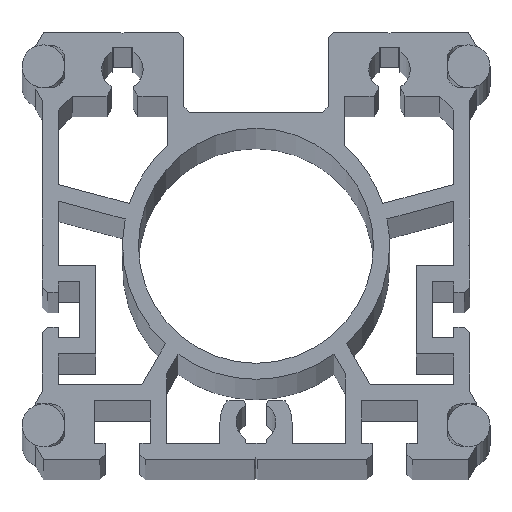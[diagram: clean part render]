
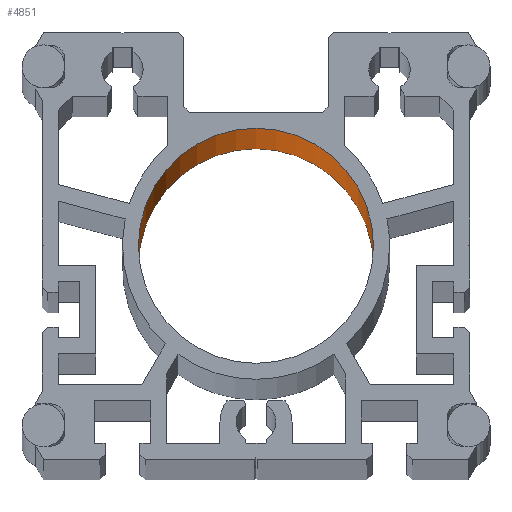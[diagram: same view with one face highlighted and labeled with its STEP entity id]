
A CAD part, top view. The second image highlights one B-rep face of the part: STEP entity #4851.
In plain terms, the highlighted cylindrical face has radius 22 mm (diameter 44 mm), a partial arc.
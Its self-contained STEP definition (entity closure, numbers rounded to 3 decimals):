
#95 = AXIS2_PLACEMENT_3D ( 'NONE', #449, #448, #416 ) ;
#96 = CIRCLE ( 'NONE', #95, 22. ) ;
#416 = DIRECTION ( 'NONE',  ( 1., 0., 0. ) ) ;
#448 = DIRECTION ( 'NONE',  ( 0., 0., 1. ) ) ;
#449 = CARTESIAN_POINT ( 'NONE',  ( 0., 40., -1099. ) ) ;
#599 = DIRECTION ( 'NONE',  ( 1., 0., 0. ) ) ;
#600 = DIRECTION ( 'NONE',  ( 0., 0., 1. ) ) ;
#601 = CARTESIAN_POINT ( 'NONE',  ( 0., 40., -1099. ) ) ;
#602 = AXIS2_PLACEMENT_3D ( 'NONE', #601, #600, #599 ) ;
#604 = CYLINDRICAL_SURFACE ( 'NONE', #602, 22. ) ;
#605 = FACE_OUTER_BOUND ( 'NONE', #4852, .T. ) ;
#606 = DIRECTION ( 'NONE',  ( 1., 0., 0. ) ) ;
#607 = DIRECTION ( 'NONE',  ( 0., 0., 1. ) ) ;
#638 = CARTESIAN_POINT ( 'NONE',  ( 0., 40., 1099. ) ) ;
#639 = AXIS2_PLACEMENT_3D ( 'NONE', #638, #607, #606 ) ;
#640 = CIRCLE ( 'NONE', #639, 22. ) ;
#3187 = VERTEX_POINT ( 'NONE', #6431 ) ;
#3188 = VERTEX_POINT ( 'NONE', #6430 ) ;
#3312 = EDGE_CURVE ( 'NONE', #3187, #3313, #6535, .T. ) ;
#3313 = VERTEX_POINT ( 'NONE', #6525 ) ;
#3316 = VERTEX_POINT ( 'NONE', #6603 ) ;
#3318 = EDGE_CURVE ( 'NONE', #3188, #3316, #6602, .T. ) ;
#4610 = EDGE_CURVE ( 'NONE', #3188, #3187, #96, .T. ) ;
#4849 = EDGE_CURVE ( 'NONE', #3316, #3313, #640, .T. ) ;
#4851 = ADVANCED_FACE ( 'NONE', ( #605 ), #604, .F. ) ;
#4852 = EDGE_LOOP ( 'NONE', ( #4853, #4854, #4855, #4856 ) ) ;
#4853 = ORIENTED_EDGE ( 'NONE', *, *, #3312, .F. ) ;
#4854 = ORIENTED_EDGE ( 'NONE', *, *, #4610, .F. ) ;
#4855 = ORIENTED_EDGE ( 'NONE', *, *, #3318, .T. ) ;
#4856 = ORIENTED_EDGE ( 'NONE', *, *, #4849, .T. ) ;
#6430 = CARTESIAN_POINT ( 'NONE',  ( 22., 40., -1099. ) ) ;
#6431 = CARTESIAN_POINT ( 'NONE',  ( -22., 40., -1099. ) ) ;
#6525 = CARTESIAN_POINT ( 'NONE',  ( -22., 40., 1099. ) ) ;
#6527 = DIRECTION ( 'NONE',  ( 0., 0., 1. ) ) ;
#6528 = VECTOR ( 'NONE', #6527, 1000. ) ;
#6529 = CARTESIAN_POINT ( 'NONE',  ( -22., 40., -1099. ) ) ;
#6535 = LINE ( 'NONE', #6529, #6528 ) ;
#6599 = DIRECTION ( 'NONE',  ( 0., 0., 1. ) ) ;
#6600 = VECTOR ( 'NONE', #6599, 1000. ) ;
#6601 = CARTESIAN_POINT ( 'NONE',  ( 22., 40., -1099. ) ) ;
#6602 = LINE ( 'NONE', #6601, #6600 ) ;
#6603 = CARTESIAN_POINT ( 'NONE',  ( 22., 40., 1099. ) ) ;
